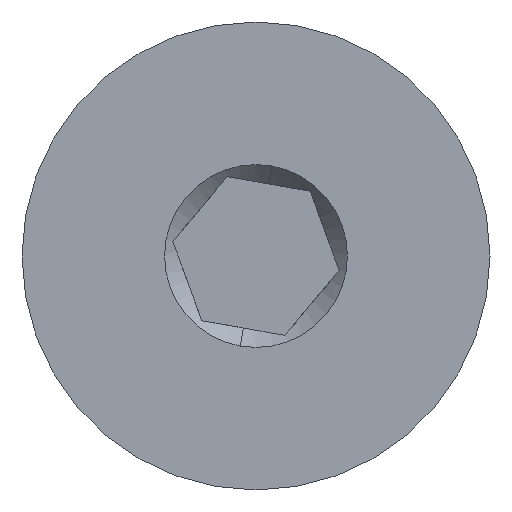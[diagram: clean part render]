
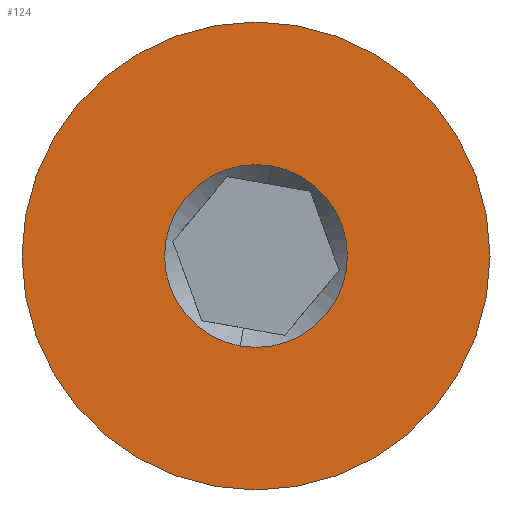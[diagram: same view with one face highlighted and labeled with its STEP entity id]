
A CAD part, front view. The second image highlights one B-rep face of the part: STEP entity #124.
In plain terms, the highlighted planar face has unit normal (0, -1, 0) as drawn and (0, 1, 0) by its records, which use the part's own axes.
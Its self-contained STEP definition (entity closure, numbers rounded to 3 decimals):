
#15 = EDGE_CURVE ( 'NONE', #1156, #1922, #748, .T. ) ;
#25 = EDGE_CURVE ( 'NONE', #1567, #1613, #767, .T. ) ;
#52 = CARTESIAN_POINT ( 'NONE',  ( 0., 14.5, 3.75 ) ) ;
#80 = PLANE ( 'NONE',  #1905 ) ;
#89 = CARTESIAN_POINT ( 'NONE',  ( -9.6, 14.5, 0. ) ) ;
#107 = CARTESIAN_POINT ( 'NONE',  ( 0., 14.5, -3.75 ) ) ;
#124 = ADVANCED_FACE ( 'NONE', ( #482, #455 ), #80, .F. ) ;
#128 = DIRECTION ( 'NONE',  ( 0., -1., 0. ) ) ;
#136 = DIRECTION ( 'NONE',  ( 0., 0., -1. ) ) ;
#291 = CARTESIAN_POINT ( 'NONE',  ( 0., 14.5, 0. ) ) ;
#455 = FACE_BOUND ( 'NONE', #2065, .T. ) ;
#482 = FACE_OUTER_BOUND ( 'NONE', #2115, .T. ) ;
#498 = CARTESIAN_POINT ( 'NONE',  ( 0., 14.5, 9.6 ) ) ;
#505 = ORIENTED_EDGE ( 'NONE', *, *, #582, .F. ) ;
#582 = EDGE_CURVE ( 'NONE', #1922, #1156, #2188, .T. ) ;
#583 = DIRECTION ( 'NONE',  ( 0., 0., -1. ) ) ;
#748 = CIRCLE ( 'NONE', #1025, 9.6 ) ;
#754 = DIRECTION ( 'NONE',  ( 0., 0., -1. ) ) ;
#767 = CIRCLE ( 'NONE', #1018, 3.75 ) ;
#780 = ORIENTED_EDGE ( 'NONE', *, *, #25, .T. ) ;
#845 = CARTESIAN_POINT ( 'NONE',  ( 0., 14.5, 0. ) ) ;
#876 = DIRECTION ( 'NONE',  ( 0., -1., 0. ) ) ;
#885 = EDGE_CURVE ( 'NONE', #1613, #1567, #1045, .T. ) ;
#931 = AXIS2_PLACEMENT_3D ( 'NONE', #1445, #1441, #1438 ) ;
#999 = ORIENTED_EDGE ( 'NONE', *, *, #15, .F. ) ;
#1018 = AXIS2_PLACEMENT_3D ( 'NONE', #845, #876, #583 ) ;
#1025 = AXIS2_PLACEMENT_3D ( 'NONE', #291, #2059, #754 ) ;
#1045 = CIRCLE ( 'NONE', #1122, 3.75 ) ;
#1069 = DIRECTION ( 'NONE',  ( 0., 0., -1. ) ) ;
#1078 = DIRECTION ( 'NONE',  ( 0., -1., 0. ) ) ;
#1083 = CARTESIAN_POINT ( 'NONE',  ( 0., 14.5, 0. ) ) ;
#1122 = AXIS2_PLACEMENT_3D ( 'NONE', #1083, #1078, #1069 ) ;
#1156 = VERTEX_POINT ( 'NONE', #498 ) ;
#1438 = DIRECTION ( 'NONE',  ( 0., 0., -1. ) ) ;
#1441 = DIRECTION ( 'NONE',  ( 0., -1., 0. ) ) ;
#1445 = CARTESIAN_POINT ( 'NONE',  ( 0., 14.5, 0. ) ) ;
#1472 = CARTESIAN_POINT ( 'NONE',  ( 0., 14.5, -9.6 ) ) ;
#1567 = VERTEX_POINT ( 'NONE', #107 ) ;
#1613 = VERTEX_POINT ( 'NONE', #52 ) ;
#1792 = ORIENTED_EDGE ( 'NONE', *, *, #885, .T. ) ;
#1905 = AXIS2_PLACEMENT_3D ( 'NONE', #89, #128, #136 ) ;
#1922 = VERTEX_POINT ( 'NONE', #1472 ) ;
#2059 = DIRECTION ( 'NONE',  ( 0., -1., 0. ) ) ;
#2065 = EDGE_LOOP ( 'NONE', ( #1792, #780 ) ) ;
#2115 = EDGE_LOOP ( 'NONE', ( #505, #999 ) ) ;
#2188 = CIRCLE ( 'NONE', #931, 9.6 ) ;
